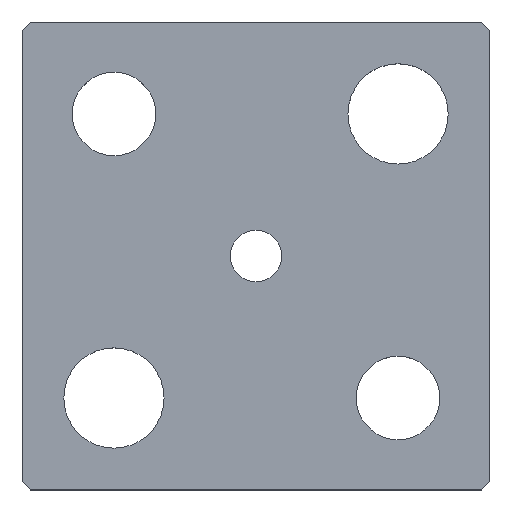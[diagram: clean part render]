
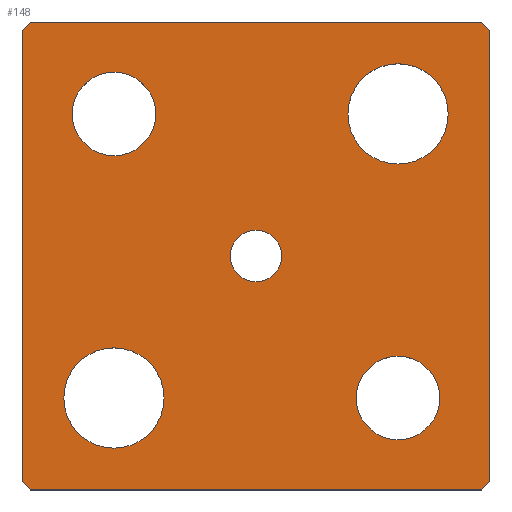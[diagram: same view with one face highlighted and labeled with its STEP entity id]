
A CAD part, top view. The second image highlights one B-rep face of the part: STEP entity #148.
In plain terms, the highlighted planar face has unit normal (0, 0, 1).
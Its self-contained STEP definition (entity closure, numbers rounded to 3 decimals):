
#117=CIRCLE('',#503,3.1);
#118=CIRCLE('',#504,3.1);
#119=CIRCLE('',#505,5.);
#120=CIRCLE('',#506,5.);
#121=CIRCLE('',#507,6.);
#122=CIRCLE('',#508,6.);
#123=CIRCLE('',#509,6.);
#124=CIRCLE('',#510,6.);
#125=CIRCLE('',#511,5.);
#126=CIRCLE('',#512,5.);
#133=FACE_BOUND('',#201,.T.);
#134=FACE_BOUND('',#202,.T.);
#135=FACE_BOUND('',#203,.T.);
#136=FACE_BOUND('',#204,.T.);
#137=FACE_BOUND('',#205,.T.);
#138=FACE_BOUND('',#206,.T.);
#148=ADVANCED_FACE('',(#133,#134,#135,#136,#137,#138),#168,.T.);
#168=PLANE('',#513);
#201=EDGE_LOOP('',(#267,#268,#269,#270,#271,#272,#273,#274));
#202=EDGE_LOOP('',(#275,#276));
#203=EDGE_LOOP('',(#277,#278));
#204=EDGE_LOOP('',(#279,#280));
#205=EDGE_LOOP('',(#281,#282));
#206=EDGE_LOOP('',(#283,#284));
#267=ORIENTED_EDGE('',*,*,#362,.T.);
#268=ORIENTED_EDGE('',*,*,#366,.T.);
#269=ORIENTED_EDGE('',*,*,#369,.T.);
#270=ORIENTED_EDGE('',*,*,#372,.T.);
#271=ORIENTED_EDGE('',*,*,#375,.T.);
#272=ORIENTED_EDGE('',*,*,#378,.T.);
#273=ORIENTED_EDGE('',*,*,#381,.T.);
#274=ORIENTED_EDGE('',*,*,#384,.T.);
#275=ORIENTED_EDGE('',*,*,#395,.T.);
#276=ORIENTED_EDGE('',*,*,#396,.T.);
#277=ORIENTED_EDGE('',*,*,#397,.T.);
#278=ORIENTED_EDGE('',*,*,#398,.T.);
#279=ORIENTED_EDGE('',*,*,#399,.T.);
#280=ORIENTED_EDGE('',*,*,#400,.T.);
#281=ORIENTED_EDGE('',*,*,#401,.T.);
#282=ORIENTED_EDGE('',*,*,#402,.T.);
#283=ORIENTED_EDGE('',*,*,#403,.T.);
#284=ORIENTED_EDGE('',*,*,#404,.T.);
#326=VERTEX_POINT('',#643);
#327=VERTEX_POINT('',#645);
#330=VERTEX_POINT('',#652);
#332=VERTEX_POINT('',#658);
#334=VERTEX_POINT('',#664);
#336=VERTEX_POINT('',#670);
#338=VERTEX_POINT('',#676);
#340=VERTEX_POINT('',#682);
#351=VERTEX_POINT('',#711);
#352=VERTEX_POINT('',#712);
#353=VERTEX_POINT('',#715);
#354=VERTEX_POINT('',#716);
#355=VERTEX_POINT('',#719);
#356=VERTEX_POINT('',#720);
#357=VERTEX_POINT('',#723);
#358=VERTEX_POINT('',#724);
#359=VERTEX_POINT('',#727);
#360=VERTEX_POINT('',#728);
#362=EDGE_CURVE('',#327,#326,#416,.T.);
#366=EDGE_CURVE('',#326,#330,#420,.T.);
#369=EDGE_CURVE('',#330,#332,#423,.T.);
#372=EDGE_CURVE('',#332,#334,#426,.T.);
#375=EDGE_CURVE('',#334,#336,#429,.T.);
#378=EDGE_CURVE('',#336,#338,#432,.T.);
#381=EDGE_CURVE('',#338,#340,#435,.T.);
#384=EDGE_CURVE('',#340,#327,#438,.T.);
#395=EDGE_CURVE('',#351,#352,#117,.T.);
#396=EDGE_CURVE('',#352,#351,#118,.T.);
#397=EDGE_CURVE('',#353,#354,#119,.T.);
#398=EDGE_CURVE('',#354,#353,#120,.T.);
#399=EDGE_CURVE('',#355,#356,#121,.T.);
#400=EDGE_CURVE('',#356,#355,#122,.T.);
#401=EDGE_CURVE('',#357,#358,#123,.T.);
#402=EDGE_CURVE('',#358,#357,#124,.T.);
#403=EDGE_CURVE('',#359,#360,#125,.T.);
#404=EDGE_CURVE('',#360,#359,#126,.T.);
#416=LINE('',#644,#450);
#420=LINE('',#653,#454);
#423=LINE('',#659,#457);
#426=LINE('',#665,#460);
#429=LINE('',#671,#463);
#432=LINE('',#677,#466);
#435=LINE('',#683,#469);
#438=LINE('',#687,#472);
#450=VECTOR('',#527,1.);
#454=VECTOR('',#533,1.);
#457=VECTOR('',#538,1.);
#460=VECTOR('',#543,1.);
#463=VECTOR('',#548,1.);
#466=VECTOR('',#553,1.);
#469=VECTOR('',#558,1.);
#472=VECTOR('',#563,1.);
#503=AXIS2_PLACEMENT_3D('',#710,#588,#589);
#504=AXIS2_PLACEMENT_3D('',#713,#590,#591);
#505=AXIS2_PLACEMENT_3D('',#714,#592,#593);
#506=AXIS2_PLACEMENT_3D('',#717,#594,#595);
#507=AXIS2_PLACEMENT_3D('',#718,#596,#597);
#508=AXIS2_PLACEMENT_3D('',#721,#598,#599);
#509=AXIS2_PLACEMENT_3D('',#722,#600,#601);
#510=AXIS2_PLACEMENT_3D('',#725,#602,#603);
#511=AXIS2_PLACEMENT_3D('',#726,#604,#605);
#512=AXIS2_PLACEMENT_3D('',#729,#606,#607);
#513=AXIS2_PLACEMENT_3D('',#730,#608,#609);
#527=DIRECTION('',(0.707,-0.707,0.));
#533=DIRECTION('',(1.,0.,0.));
#538=DIRECTION('',(0.707,0.707,0.));
#543=DIRECTION('',(0.,1.,0.));
#548=DIRECTION('',(-0.707,0.707,0.));
#553=DIRECTION('',(-1.,0.,0.));
#558=DIRECTION('',(-0.707,-0.707,0.));
#563=DIRECTION('',(0.,-1.,0.));
#588=DIRECTION('',(0.,0.,-1.));
#589=DIRECTION('',(-1.,0.,0.));
#590=DIRECTION('',(0.,0.,-1.));
#591=DIRECTION('',(1.,0.,0.));
#592=DIRECTION('',(0.,0.,-1.));
#593=DIRECTION('',(-1.,0.,0.));
#594=DIRECTION('',(0.,0.,-1.));
#595=DIRECTION('',(1.,0.,0.));
#596=DIRECTION('',(0.,0.,-1.));
#597=DIRECTION('',(-1.,0.,0.));
#598=DIRECTION('',(0.,0.,-1.));
#599=DIRECTION('',(1.,0.,0.));
#600=DIRECTION('',(0.,0.,-1.));
#601=DIRECTION('',(-1.,0.,0.));
#602=DIRECTION('',(0.,0.,-1.));
#603=DIRECTION('',(1.,0.,0.));
#604=DIRECTION('',(0.,0.,-1.));
#605=DIRECTION('',(-1.,0.,0.));
#606=DIRECTION('',(0.,0.,-1.));
#607=DIRECTION('',(1.,0.,0.));
#608=DIRECTION('',(0.,0.,1.));
#609=DIRECTION('',(0.,-1.,0.));
#643=CARTESIAN_POINT('',(-27.,-28.,5.));
#644=CARTESIAN_POINT('',(-28.,-27.,5.));
#645=CARTESIAN_POINT('',(-28.,-27.,5.));
#652=CARTESIAN_POINT('',(27.,-28.,5.));
#653=CARTESIAN_POINT('',(-27.,-28.,5.));
#658=CARTESIAN_POINT('',(28.,-27.,5.));
#659=CARTESIAN_POINT('',(28.,-27.,5.));
#664=CARTESIAN_POINT('',(28.,27.,5.));
#665=CARTESIAN_POINT('',(28.,27.,5.));
#670=CARTESIAN_POINT('',(27.,28.,5.));
#671=CARTESIAN_POINT('',(27.,28.,5.));
#676=CARTESIAN_POINT('',(-27.,28.,5.));
#677=CARTESIAN_POINT('',(-27.,28.,5.));
#682=CARTESIAN_POINT('',(-28.,27.,5.));
#683=CARTESIAN_POINT('',(-28.,27.,5.));
#687=CARTESIAN_POINT('',(-28.,27.,5.));
#710=CARTESIAN_POINT('',(0.,0.,5.));
#711=CARTESIAN_POINT('',(0.,3.1,5.));
#712=CARTESIAN_POINT('',(0.,-3.1,5.));
#713=CARTESIAN_POINT('',(0.,0.,5.));
#714=CARTESIAN_POINT('',(-17.,17.,5.));
#715=CARTESIAN_POINT('',(-17.,22.,5.));
#716=CARTESIAN_POINT('',(-17.,12.,5.));
#717=CARTESIAN_POINT('',(-17.,17.,5.));
#718=CARTESIAN_POINT('',(17.,17.,5.));
#719=CARTESIAN_POINT('',(17.,23.,5.));
#720=CARTESIAN_POINT('',(17.,11.,5.));
#721=CARTESIAN_POINT('',(17.,17.,5.));
#722=CARTESIAN_POINT('',(-17.,-17.,5.));
#723=CARTESIAN_POINT('',(-17.,-11.,5.));
#724=CARTESIAN_POINT('',(-17.,-23.,5.));
#725=CARTESIAN_POINT('',(-17.,-17.,5.));
#726=CARTESIAN_POINT('',(17.,-17.,5.));
#727=CARTESIAN_POINT('',(17.,-12.,5.));
#728=CARTESIAN_POINT('',(17.,-22.,5.));
#729=CARTESIAN_POINT('',(17.,-17.,5.));
#730=CARTESIAN_POINT('',(-28.,-27.,5.));
